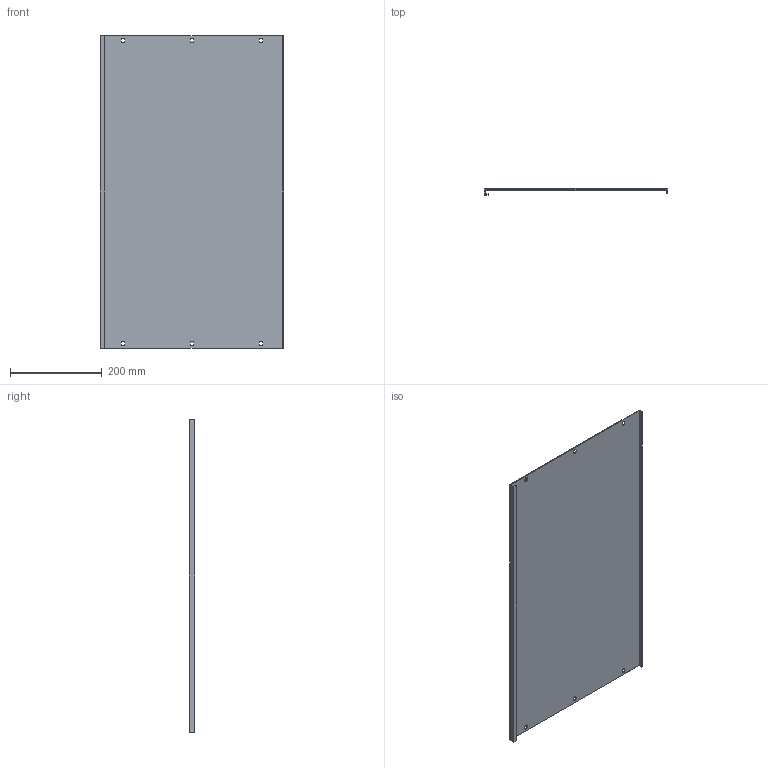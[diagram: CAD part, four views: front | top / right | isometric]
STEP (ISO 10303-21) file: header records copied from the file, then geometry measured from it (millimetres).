
FILE_DESCRIPTION (( 'STEP AP214' ), '1' );
FILE_NAME ('FO-00-PVS-040-080 Ïëàñòðîí ãëóõîé âíóòðåííèé 400õ800.STEP', '2025-08-26T09:51:21', ( '' ), ( '' ), 'SwSTEP 2.0', 'SolidWorks 2023', '' );
FILE_SCHEMA (( 'AUTOMOTIVE_DESIGN' ));
Length unit declared in the file: millimetre
Products named in the file (1): FO-00-PVS-040-080 Пластрон глухой внутренний 400х800
Bounding box: 398 x 12.5 x 679 mm (x, y, z)
Volume: 431308.6 mm3; surface area: 578639.1 mm2
Topology: 1 solids, 1 shells, 52 faces, 150 edges, 100 vertices
Faces by surface type: plane 34, cylinder 18
Entity records: 1757 total; most frequent: CARTESIAN_POINT 303, ORIENTED_EDGE 300, DIRECTION 292, EDGE_CURVE 150, VECTOR 114, LINE 114, VERTEX_POINT 100, AXIS2_PLACEMENT_3D 89
